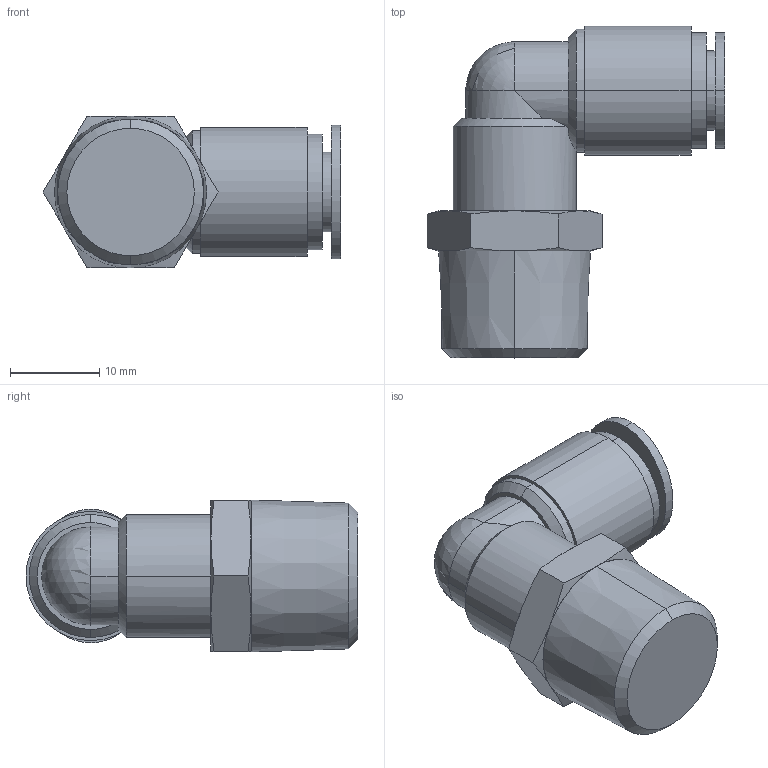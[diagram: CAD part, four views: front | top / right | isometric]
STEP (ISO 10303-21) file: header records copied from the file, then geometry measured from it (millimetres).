
FILE_DESCRIPTION (( 'STEP AP214' ), '1' );
FILE_NAME ('APL8-03.STEP', '2019-11-22T02:36:08', ( '微软用户' ), ( '微软中国' ), 'SwSTEP 2.0', 'SolidWorks 2016', '' );
FILE_SCHEMA (( 'AUTOMOTIVE_DESIGN' ));
Length unit declared in the file: millimetre
Products named in the file (1): APL8-03
Bounding box: 33.41 x 37.25 x 17.05 mm (x, y, z)
Volume: 7783.6 mm3; surface area: 3558.1 mm2
Topology: 1 solids, 1 shells, 57 faces, 126 edges, 76 vertices
Faces by surface type: cone 20, cylinder 17, plane 17, bspline 2, sphere 1
Entity records: 1655 total; most frequent: CARTESIAN_POINT 412, DIRECTION 255, ORIENTED_EDGE 248, EDGE_CURVE 124, AXIS2_PLACEMENT_3D 111, VERTEX_POINT 76, EDGE_LOOP 64, ADVANCED_FACE 57
